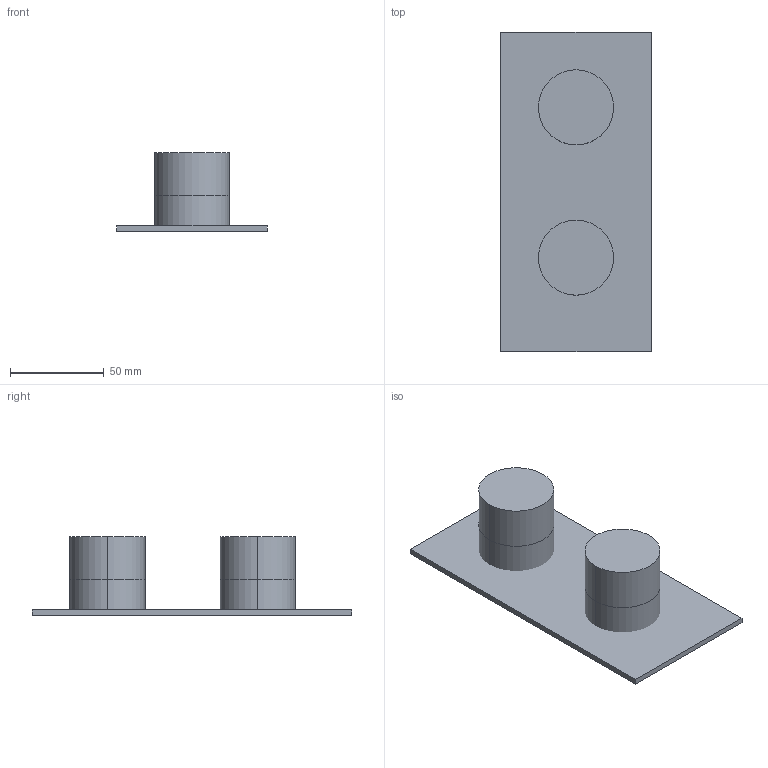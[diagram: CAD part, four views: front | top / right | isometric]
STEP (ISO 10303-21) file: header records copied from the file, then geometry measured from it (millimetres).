
FILE_DESCRIPTION(('FreeCAD Model'),'2;1');
FILE_NAME('Open CASCADE Shape Model','2024-07-23T19:31:22',('Author'),( ''),'Open CASCADE STEP processor 7.6','FreeCAD','Unknown');
FILE_SCHEMA(('AUTOMOTIVE_DESIGN { 1 0 10303 214 1 1 1 1 }'));
Length unit declared in the file: millimetre
Products named in the file (8): TopLevelAssembly; Wyciąganie001; Wyciąganie002; Wyciąganie003; Wyciąganie004; Wyciąganie005; Wyciąganie006; Wyciąganie007
Assembly tree (7 placements, depth 2):
  TopLevelAssembly
    Wyciąganie001
    Wyciąganie002
    Wyciąganie003
    Wyciąganie004
    Wyciąganie005
    Wyciąganie006
    Wyciąganie007
Bounding box: 80 x 170 x 42 mm (x, y, z)
Volume: 251915 mm3; surface area: 64891.1 mm2
Topology: 7 solids, 7 shells, 30 faces, 48 edges, 32 vertices
Faces by surface type: plane 18, cylinder 12
Entity records: 892 total; most frequent: DIRECTION 148, CARTESIAN_POINT 118, ORIENTED_EDGE 96, AXIS2_PLACEMENT_3D 62, EDGE_CURVE 48, VERTEX_POINT 32, ADVANCED_FACE 30, FACE_BOUND 30
